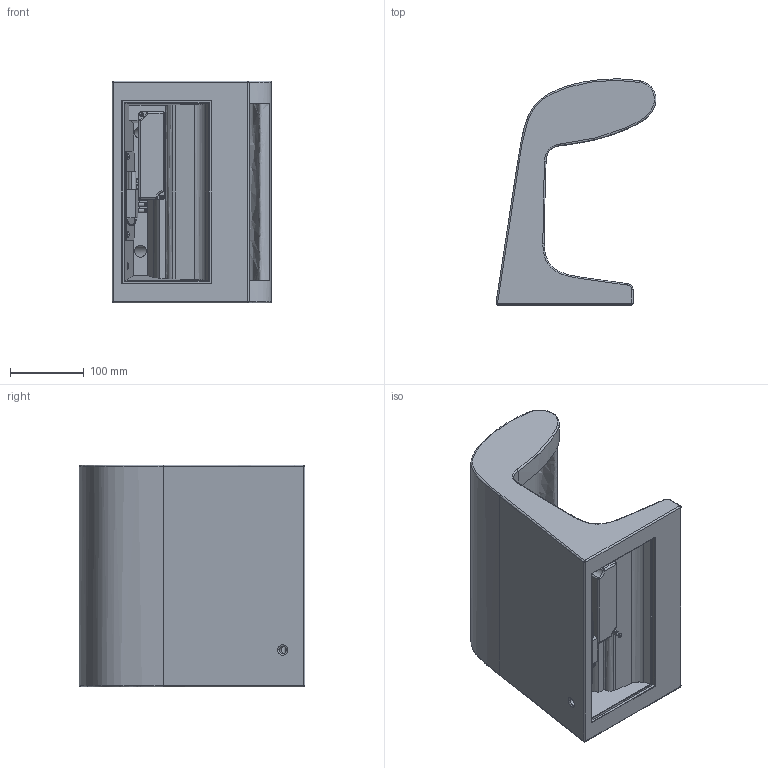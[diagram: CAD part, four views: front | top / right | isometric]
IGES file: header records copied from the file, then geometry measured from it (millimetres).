
Start section: SolidWorks IGES file using analytic representation for surfaces
Global section: file name: H:\importazione sito nemo\IMPORT GIUGNO 2016\materiali\260-BORNE BÉTON PETIT\download\800BBPLDW211_Borne Beton Piccola.IGS; native system: SolidWorks 2016; preprocessor: SolidWorks 2016; author: gpinheiro; date: 161110.120205; units: millimetre
Bounding box: 216.21 x 305.2 x 300 mm (x, y, z)
Volume: 5950685.4 mm3; surface area: 672414.7 mm2
Topology: 31 solids, 31 shells, 2467 faces, 6376 edges, 4136 vertices
Faces by surface type: plane 1890, revolution 553, bspline 24
